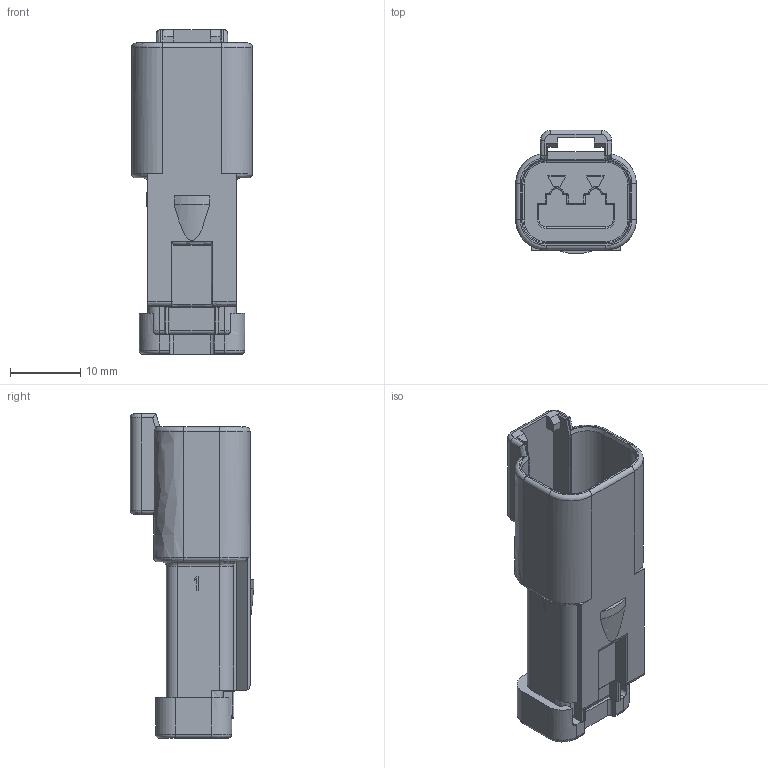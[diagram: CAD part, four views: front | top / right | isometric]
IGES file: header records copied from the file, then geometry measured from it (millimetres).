
Start section:  PTC IGES file: c-dt04-2p-ce01-99-3d.igs
Global section: file name: c-dt04-2p-ce01-99-3d.igs; native system: Pro/ENGINEER by Parametric Technology Corporation; preprocessor: 2010430; author: workeradm; organization: Unknown; units: millimetre
Bounding box: 17.14 x 17.53 x 46.18 mm (x, y, z)
Surface area: 4471.9 mm2 (no closed solid volume)
Topology: 0 solids, 0 shells, 303 faces, 1538 edges, 1538 vertices
Faces by surface type: revolution 177, bspline 126
